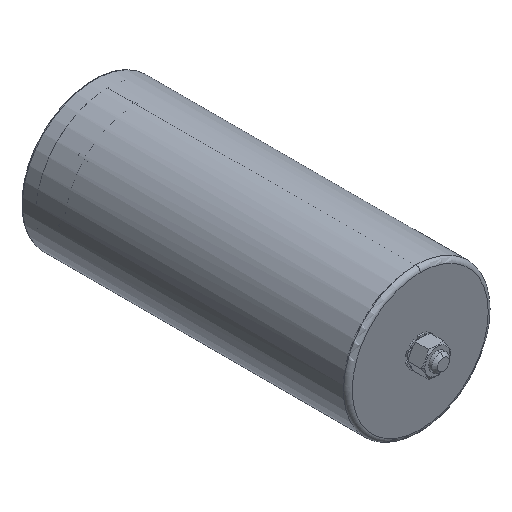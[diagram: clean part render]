
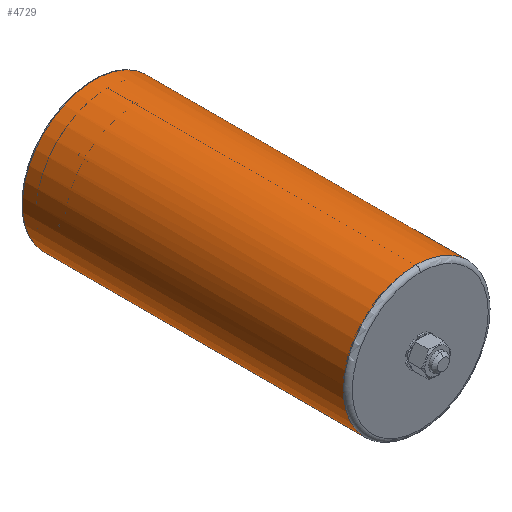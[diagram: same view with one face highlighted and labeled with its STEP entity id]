
A CAD part, isometric view. The second image highlights one B-rep face of the part: STEP entity #4729.
In plain terms, the highlighted cylindrical face has radius 50 mm (diameter 100 mm), a partial arc.
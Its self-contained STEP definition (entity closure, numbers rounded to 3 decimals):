
#79 = CARTESIAN_POINT ( 'NONE',  ( 0., 3., 50. ) ) ;
#357 = ORIENTED_EDGE ( 'NONE', *, *, #5267, .T. ) ;
#565 = CARTESIAN_POINT ( 'NONE',  ( 0., 3., 0. ) ) ;
#643 = VERTEX_POINT ( 'NONE', #79 ) ;
#916 = CARTESIAN_POINT ( 'NONE',  ( 35.355, 225., 35.355 ) ) ;
#1436 = AXIS2_PLACEMENT_3D ( 'NONE', #565, #4387, #8208 ) ;
#1500 = ORIENTED_EDGE ( 'NONE', *, *, #8400, .T. ) ;
#2006 = FACE_OUTER_BOUND ( 'NONE', #7065, .T. ) ;
#2033 = DIRECTION ( 'NONE',  ( 0., -1., 0. ) ) ;
#2139 = CYLINDRICAL_SURFACE ( 'NONE', #9047, 50. ) ;
#2418 = VERTEX_POINT ( 'NONE', #916 ) ;
#2926 = CARTESIAN_POINT ( 'NONE',  ( 0., 225., 0. ) ) ;
#3235 = VERTEX_POINT ( 'NONE', #8390 ) ;
#3244 = CIRCLE ( 'NONE', #6846, 50. ) ;
#3414 = EDGE_CURVE ( 'NONE', #12008, #3235, #5748, .T. ) ;
#3543 = DIRECTION ( 'NONE',  ( 0., 1., 0. ) ) ;
#3681 = CARTESIAN_POINT ( 'NONE',  ( -35.355, 216., -35.355 ) ) ;
#4387 = DIRECTION ( 'NONE',  ( 0., 1., 0. ) ) ;
#4729 = ADVANCED_FACE ( 'NONE', ( #2006 ), #2139, .T. ) ;
#4886 = DIRECTION ( 'NONE',  ( 0.707, 0., 0.707 ) ) ;
#4924 = DIRECTION ( 'NONE',  ( 0., 0., 1. ) ) ;
#5125 = ORIENTED_EDGE ( 'NONE', *, *, #12354, .T. ) ;
#5267 = EDGE_CURVE ( 'NONE', #2418, #3235, #7048, .T. ) ;
#5708 = ORIENTED_EDGE ( 'NONE', *, *, #3414, .F. ) ;
#5748 = LINE ( 'NONE', #3681, #12276 ) ;
#6650 = VECTOR ( 'NONE', #3543, 1000. ) ;
#6846 = AXIS2_PLACEMENT_3D ( 'NONE', #10453, #7691, #4924 ) ;
#7048 = CIRCLE ( 'NONE', #7449, 50. ) ;
#7065 = EDGE_LOOP ( 'NONE', ( #5708, #1500, #10551, #5125, #357 ) ) ;
#7449 = AXIS2_PLACEMENT_3D ( 'NONE', #2926, #2033, #11543 ) ;
#7584 = CARTESIAN_POINT ( 'NONE',  ( 35.355, 3., 35.355 ) ) ;
#7691 = DIRECTION ( 'NONE',  ( 0., 1., 0. ) ) ;
#8208 = DIRECTION ( 'NONE',  ( 0., 0., 1. ) ) ;
#8288 = EDGE_CURVE ( 'NONE', #643, #9692, #3244, .T. ) ;
#8306 = CARTESIAN_POINT ( 'NONE',  ( 35.355, 216., 35.355 ) ) ;
#8370 = LINE ( 'NONE', #8306, #6650 ) ;
#8390 = CARTESIAN_POINT ( 'NONE',  ( -35.355, 225., -35.355 ) ) ;
#8400 = EDGE_CURVE ( 'NONE', #12008, #643, #9244, .T. ) ;
#8773 = CARTESIAN_POINT ( 'NONE',  ( -35.355, 3., -35.355 ) ) ;
#8842 = DIRECTION ( 'NONE',  ( 0., 1., 0. ) ) ;
#9047 = AXIS2_PLACEMENT_3D ( 'NONE', #10748, #8842, #4886 ) ;
#9244 = CIRCLE ( 'NONE', #1436, 50. ) ;
#9692 = VERTEX_POINT ( 'NONE', #7584 ) ;
#10408 = DIRECTION ( 'NONE',  ( 0., 1., 0. ) ) ;
#10453 = CARTESIAN_POINT ( 'NONE',  ( 0., 3., 0. ) ) ;
#10551 = ORIENTED_EDGE ( 'NONE', *, *, #8288, .T. ) ;
#10748 = CARTESIAN_POINT ( 'NONE',  ( 0., 216., 0. ) ) ;
#11543 = DIRECTION ( 'NONE',  ( -0.707, 0., -0.707 ) ) ;
#12008 = VERTEX_POINT ( 'NONE', #8773 ) ;
#12276 = VECTOR ( 'NONE', #10408, 1000. ) ;
#12354 = EDGE_CURVE ( 'NONE', #9692, #2418, #8370, .T. ) ;
